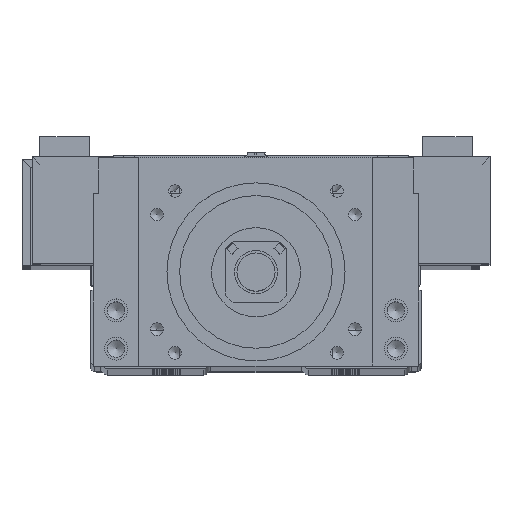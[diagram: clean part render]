
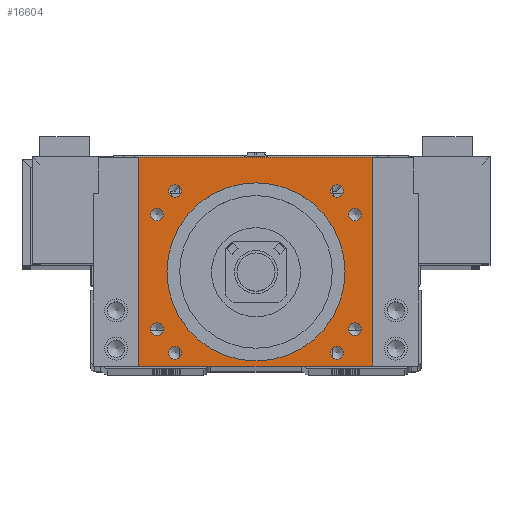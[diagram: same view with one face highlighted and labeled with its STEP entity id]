
A CAD part, top view. The second image highlights one B-rep face of the part: STEP entity #16604.
In plain terms, the highlighted planar face has unit normal (0, 0, 1).
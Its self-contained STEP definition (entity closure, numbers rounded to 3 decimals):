
#1791=CIRCLE('',#52647,35.015);
#1792=CIRCLE('',#52649,2.5);
#1793=CIRCLE('',#52650,2.5);
#1794=CIRCLE('',#52651,2.5);
#1795=CIRCLE('',#52652,2.5);
#1796=CIRCLE('',#52653,2.5);
#1797=CIRCLE('',#52654,2.5);
#1798=CIRCLE('',#52655,2.5);
#1799=CIRCLE('',#52656,2.5);
#2573=FACE_BOUND('',#24744,.T.);
#2574=FACE_BOUND('',#24745,.T.);
#2575=FACE_BOUND('',#24746,.T.);
#2576=FACE_BOUND('',#24747,.T.);
#2577=FACE_BOUND('',#24748,.T.);
#2578=FACE_BOUND('',#24749,.T.);
#2579=FACE_BOUND('',#24750,.T.);
#2580=FACE_BOUND('',#24751,.T.);
#2581=FACE_BOUND('',#24752,.T.);
#2582=FACE_BOUND('',#24753,.T.);
#6539=LINE('',#74631,#12345);
#6937=LINE('',#76247,#12743);
#6942=LINE('',#76255,#12748);
#6947=LINE('',#76264,#12753);
#12345=VECTOR('',#60386,1.);
#12743=VECTOR('',#61680,1.);
#12748=VECTOR('',#61691,1.);
#12753=VECTOR('',#61698,1.);
#16604=ADVANCED_FACE('',(#2573,#2574,#2575,#2576,#2577,#2578,#2579,#2580,
#2581,#2582),#19443,.T.);
#19443=PLANE('',#52657);
#24744=EDGE_LOOP('',(#34149,#34150,#34151,#34152));
#24745=EDGE_LOOP('',(#34153));
#24746=EDGE_LOOP('',(#34154));
#24747=EDGE_LOOP('',(#34155));
#24748=EDGE_LOOP('',(#34156));
#24749=EDGE_LOOP('',(#34157));
#24750=EDGE_LOOP('',(#34158));
#24751=EDGE_LOOP('',(#34159));
#24752=EDGE_LOOP('',(#34160));
#24753=EDGE_LOOP('',(#34161));
#34149=ORIENTED_EDGE('',*,*,#47879,.T.);
#34150=ORIENTED_EDGE('',*,*,#47234,.T.);
#34151=ORIENTED_EDGE('',*,*,#47874,.T.);
#34152=ORIENTED_EDGE('',*,*,#47884,.T.);
#34153=ORIENTED_EDGE('',*,*,#47892,.F.);
#34154=ORIENTED_EDGE('',*,*,#47893,.T.);
#34155=ORIENTED_EDGE('',*,*,#47894,.T.);
#34156=ORIENTED_EDGE('',*,*,#47895,.F.);
#34157=ORIENTED_EDGE('',*,*,#47891,.F.);
#34158=ORIENTED_EDGE('',*,*,#47896,.T.);
#34159=ORIENTED_EDGE('',*,*,#47897,.T.);
#34160=ORIENTED_EDGE('',*,*,#47898,.T.);
#34161=ORIENTED_EDGE('',*,*,#47899,.T.);
#41649=VERTEX_POINT('',#74630);
#41650=VERTEX_POINT('',#74632);
#42122=VERTEX_POINT('',#76245);
#42124=VERTEX_POINT('',#76256);
#42130=VERTEX_POINT('',#76280);
#42131=VERTEX_POINT('',#76283);
#42132=VERTEX_POINT('',#76285);
#42133=VERTEX_POINT('',#76287);
#42134=VERTEX_POINT('',#76289);
#42135=VERTEX_POINT('',#76291);
#42136=VERTEX_POINT('',#76293);
#42137=VERTEX_POINT('',#76295);
#42138=VERTEX_POINT('',#76297);
#47234=EDGE_CURVE('',#41650,#41649,#6539,.T.);
#47874=EDGE_CURVE('',#41649,#42122,#6937,.T.);
#47879=EDGE_CURVE('',#42124,#41650,#6942,.T.);
#47884=EDGE_CURVE('',#42122,#42124,#6947,.T.);
#47891=EDGE_CURVE('',#42130,#42130,#1791,.T.);
#47892=EDGE_CURVE('',#42131,#42131,#1792,.T.);
#47893=EDGE_CURVE('',#42132,#42132,#1793,.T.);
#47894=EDGE_CURVE('',#42133,#42133,#1794,.T.);
#47895=EDGE_CURVE('',#42134,#42134,#1795,.T.);
#47896=EDGE_CURVE('',#42135,#42135,#1796,.T.);
#47897=EDGE_CURVE('',#42136,#42136,#1797,.T.);
#47898=EDGE_CURVE('',#42137,#42137,#1798,.T.);
#47899=EDGE_CURVE('',#42138,#42138,#1799,.T.);
#52647=AXIS2_PLACEMENT_3D('',#76279,#61717,#61718);
#52649=AXIS2_PLACEMENT_3D('',#76282,#61721,#61722);
#52650=AXIS2_PLACEMENT_3D('',#76284,#61723,#61724);
#52651=AXIS2_PLACEMENT_3D('',#76286,#61725,#61726);
#52652=AXIS2_PLACEMENT_3D('',#76288,#61727,#61728);
#52653=AXIS2_PLACEMENT_3D('',#76290,#61729,#61730);
#52654=AXIS2_PLACEMENT_3D('',#76292,#61731,#61732);
#52655=AXIS2_PLACEMENT_3D('',#76294,#61733,#61734);
#52656=AXIS2_PLACEMENT_3D('',#76296,#61735,#61736);
#52657=AXIS2_PLACEMENT_3D('',#76298,#61737,#61738);
#60386=DIRECTION('',(-1.,0.,0.));
#61680=DIRECTION('',(0.,-1.,0.));
#61691=DIRECTION('',(0.,1.,0.));
#61698=DIRECTION('',(1.,0.,0.));
#61717=DIRECTION('',(0.,0.,1.));
#61718=DIRECTION('',(1.,0.,0.));
#61721=DIRECTION('',(0.,0.,1.));
#61722=DIRECTION('',(-1.,0.,0.));
#61723=DIRECTION('',(0.,0.,-1.));
#61724=DIRECTION('',(1.,0.,0.));
#61725=DIRECTION('',(0.,0.,-1.));
#61726=DIRECTION('',(1.,0.,0.));
#61727=DIRECTION('',(0.,0.,1.));
#61728=DIRECTION('',(-1.,0.,0.));
#61729=DIRECTION('',(0.,0.,-1.));
#61730=DIRECTION('',(1.,0.,0.));
#61731=DIRECTION('',(0.,0.,-1.));
#61732=DIRECTION('',(1.,0.,0.));
#61733=DIRECTION('',(0.,0.,-1.));
#61734=DIRECTION('',(1.,0.,0.));
#61735=DIRECTION('',(0.,0.,-1.));
#61736=DIRECTION('',(1.,0.,0.));
#61737=DIRECTION('',(0.,0.,1.));
#61738=DIRECTION('',(1.,0.,0.));
#74630=CARTESIAN_POINT('',(-46.,83.,100.));
#74631=CARTESIAN_POINT('',(0.,83.,100.));
#74632=CARTESIAN_POINT('',(46.,83.,100.));
#76245=CARTESIAN_POINT('',(-46.,1.,100.));
#76247=CARTESIAN_POINT('',(-46.,38.,100.));
#76255=CARTESIAN_POINT('',(46.,38.,100.));
#76256=CARTESIAN_POINT('',(46.,1.,100.));
#76264=CARTESIAN_POINT('',(0.,1.,100.));
#76279=CARTESIAN_POINT('',(0.,38.,100.));
#76280=CARTESIAN_POINT('',(35.015,38.,100.));
#76282=CARTESIAN_POINT('',(-38.971,15.5,100.));
#76283=CARTESIAN_POINT('',(-41.471,15.5,100.));
#76284=CARTESIAN_POINT('',(38.971,60.5,100.));
#76285=CARTESIAN_POINT('',(41.471,60.5,100.));
#76286=CARTESIAN_POINT('',(38.971,15.5,100.));
#76287=CARTESIAN_POINT('',(41.471,15.5,100.));
#76288=CARTESIAN_POINT('',(-38.971,60.5,100.));
#76289=CARTESIAN_POINT('',(-41.471,60.5,100.));
#76290=CARTESIAN_POINT('',(-31.82,69.82,100.));
#76291=CARTESIAN_POINT('',(-29.32,69.82,100.));
#76292=CARTESIAN_POINT('',(-31.82,6.18,100.));
#76293=CARTESIAN_POINT('',(-29.32,6.18,100.));
#76294=CARTESIAN_POINT('',(31.82,6.18,100.));
#76295=CARTESIAN_POINT('',(34.32,6.18,100.));
#76296=CARTESIAN_POINT('',(31.82,69.82,100.));
#76297=CARTESIAN_POINT('',(34.32,69.82,100.));
#76298=CARTESIAN_POINT('',(0.,38.,100.));
